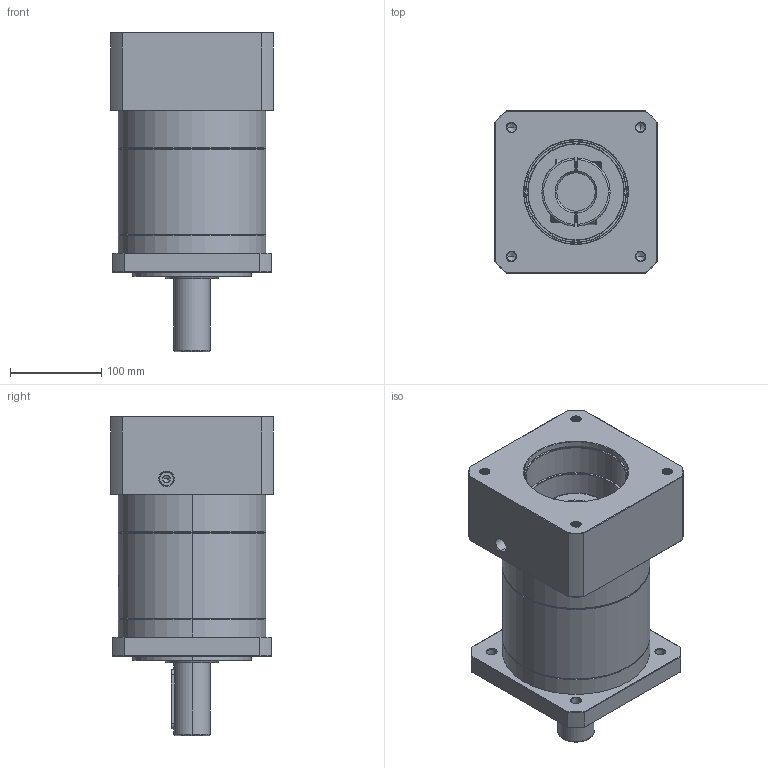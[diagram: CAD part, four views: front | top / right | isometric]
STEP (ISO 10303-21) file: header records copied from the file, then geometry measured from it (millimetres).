
FILE_DESCRIPTION (( 'STEP AP214' ), '1' );
FILE_NAME ('ZF160A-D40-L2-P2-42-114.3-200-M12.step', '2023-09-03T06:59:36', ( '' ), ( '' ), 'SwSTEP 2.0', 'SolidWorks 2016', '' );
FILE_SCHEMA (( 'AUTOMOTIVE_DESIGN' ));
Length unit declared in the file: millimetre
Products named in the file (1): ZF160A-D40-L2-P2-42-114.3-200-M12
Bounding box: 178 x 178 x 350.2 mm (x, y, z)
Volume: 5909638.6 mm3; surface area: 380580.2 mm2
Topology: 5 solids, 5 shells, 2180 faces, 5879 edges, 3806 vertices
Faces by surface type: plane 1015, bspline 411, cylinder 409, cone 323, torus 22
Entity records: 125236 total; most frequent: CARTESIAN_POINT 51637, ORIENTED_EDGE 11698, DIRECTION 8549, EDGE_CURVE 5849, VERTEX_POINT 3806, LINE 3045, VECTOR 3045, AXIS2_PLACEMENT_3D 2752
